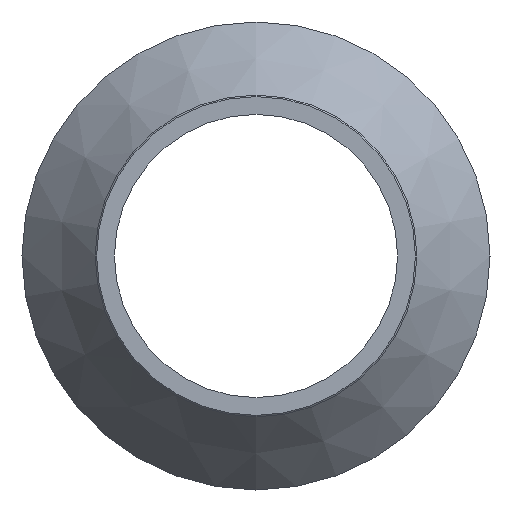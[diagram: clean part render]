
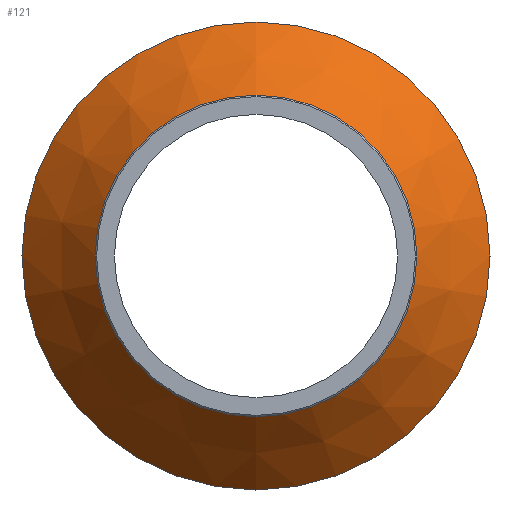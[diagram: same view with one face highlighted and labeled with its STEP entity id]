
A CAD part, left-side view. The second image highlights one B-rep face of the part: STEP entity #121.
In plain terms, the highlighted conical face has half-angle 39.806 degrees and reference radius 80 mm.
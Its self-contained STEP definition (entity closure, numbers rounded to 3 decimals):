
#22=CONICAL_SURFACE('',#146,80.,0.695);
#28=ORIENTED_EDGE('',*,*,#48,.F.);
#29=ORIENTED_EDGE('',*,*,#47,.T.);
#47=EDGE_CURVE('',#57,#57,#67,.T.);
#48=EDGE_CURVE('',#58,#58,#68,.T.);
#57=VERTEX_POINT('',#210);
#58=VERTEX_POINT('',#213);
#67=CIRCLE('',#145,80.);
#68=CIRCLE('',#147,55.);
#78=EDGE_LOOP('',(#28));
#79=EDGE_LOOP('',(#29));
#98=FACE_BOUND('',#78,.T.);
#99=FACE_BOUND('',#79,.T.);
#121=ADVANCED_FACE('',(#98,#99),#22,.T.);
#145=AXIS2_PLACEMENT_3D('',#209,#169,#170);
#146=AXIS2_PLACEMENT_3D('',#211,#171,#172);
#147=AXIS2_PLACEMENT_3D('',#212,#173,#174);
#169=DIRECTION('',(-1.,0.,0.));
#170=DIRECTION('',(0.,0.,1.));
#171=DIRECTION('',(1.,0.,0.));
#172=DIRECTION('',(0.,0.,-1.));
#173=DIRECTION('',(-1.,0.,0.));
#174=DIRECTION('',(0.,0.,1.));
#209=CARTESIAN_POINT('',(15.,0.,0.));
#210=CARTESIAN_POINT('',(15.,0.,80.));
#211=CARTESIAN_POINT('',(15.,0.,0.));
#212=CARTESIAN_POINT('',(-15.,0.,0.));
#213=CARTESIAN_POINT('',(-15.,0.,55.));
